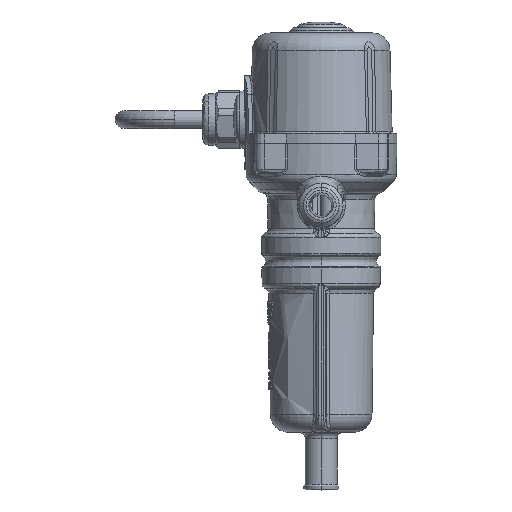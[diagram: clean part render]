
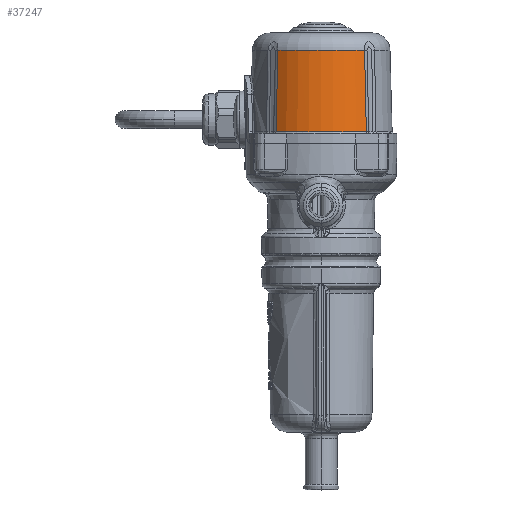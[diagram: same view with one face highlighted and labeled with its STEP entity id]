
A CAD part, left-side view. The second image highlights one B-rep face of the part: STEP entity #37247.
In plain terms, the highlighted free-form (B-spline) face has degree [2, 1] with [9, 2] control points.
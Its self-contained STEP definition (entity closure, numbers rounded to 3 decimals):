
#688 = DIRECTION ( 'NONE',  ( 0., -1., 0. ) ) ;
#2930 = FACE_OUTER_BOUND ( 'NONE', #104418, .T. ) ;
#5272 = CARTESIAN_POINT ( 'NONE',  ( -58., 37.383, -91.007 ) ) ;
#12040 = VERTEX_POINT ( 'NONE', #50521 ) ;
#15592 = CARTESIAN_POINT ( 'NONE',  ( -58., 0., 1336.596 ) ) ;
#16066 = CARTESIAN_POINT ( 'NONE',  ( -20.617, 37.383, -91.007 ) ) ;
#19569 =( BOUNDED_SURFACE ( )  B_SPLINE_SURFACE ( 2, 1, ( 
 ( #79840, #25956 ),
 ( #15592, #90662 ),
 ( #26415, #101403 ),
 ( #37211, #112207 ),
 ( #47986, #123059 ),
 ( #58753, #133825 ),
 ( #69514, #5272 ),
 ( #80305, #16066 ),
 ( #91133, #26874 ) ),
 .UNSPECIFIED., .T., .F., .F. ) 
 B_SPLINE_SURFACE_WITH_KNOTS ( ( 3, 2, 2, 2, 3 ),
 ( 2, 2 ),
 ( 0., 0.25, 0.5, 0.75, 1. ),
 ( 0., 1. ),
 .UNSPECIFIED. ) 
 GEOMETRIC_REPRESENTATION_ITEM ( )  RATIONAL_B_SPLINE_SURFACE ( (
 ( 1., 1.),
 ( 0.707, 0.707),
 ( 1., 1.),
 ( 0.707, 0.707),
 ( 1., 1.),
 ( 0.707, 0.707),
 ( 1., 1.),
 ( 0.707, 0.707),
 ( 1., 1.) ) ) 
 REPRESENTATION_ITEM ( '' )  SURFACE ( )  );
#25956 = CARTESIAN_POINT ( 'NONE',  ( -20.617, 0., -91.007 ) ) ;
#26415 = CARTESIAN_POINT ( 'NONE',  ( -58., 0., 1336.596 ) ) ;
#26874 = CARTESIAN_POINT ( 'NONE',  ( -20.617, 0., -91.007 ) ) ;
#28519 = VERTEX_POINT ( 'NONE', #98342 ) ;
#31408 = CARTESIAN_POINT ( 'NONE',  ( -85.473, 22.645, -23.026 ) ) ;
#36808 = ORIENTED_EDGE ( 'NONE', *, *, #136958, .T. ) ;
#37211 = CARTESIAN_POINT ( 'NONE',  ( -58., 0., 1336.596 ) ) ;
#37247 = ADVANCED_FACE ( 'NONE', ( #2930 ), #19569, .T. ) ;
#37489 = DIRECTION ( 'NONE',  ( 0., 0., -1. ) ) ;
#38358 = CARTESIAN_POINT ( 'NONE',  ( -84.8, -21.782, 17.736 ) ) ;
#38837 = CARTESIAN_POINT ( 'NONE',  ( -85.251, -22.355, -9.439 ) ) ;
#46051 = VERTEX_POINT ( 'NONE', #48102 ) ;
#47986 = CARTESIAN_POINT ( 'NONE',  ( -58., 0., 1336.596 ) ) ;
#48102 = CARTESIAN_POINT ( 'NONE',  ( -84.8, 21.782, 17.736 ) ) ;
#50521 = CARTESIAN_POINT ( 'NONE',  ( -84.8, -21.782, 17.736 ) ) ;
#50712 = CIRCLE ( 'NONE', #98353, 35.603 ) ;
#51175 = ORIENTED_EDGE ( 'NONE', *, *, #68785, .T. ) ;
#53077 = CARTESIAN_POINT ( 'NONE',  ( -85.026, 22.068, 4.148 ) ) ;
#58753 = CARTESIAN_POINT ( 'NONE',  ( -58., 0., 1336.596 ) ) ;
#61351 = VERTEX_POINT ( 'NONE', #31408 ) ;
#62636 = EDGE_CURVE ( 'NONE', #46051, #61351, #138373, .T. ) ;
#63860 = CARTESIAN_POINT ( 'NONE',  ( -85.473, 22.645, -23.026 ) ) ;
#64966 = DIRECTION ( 'NONE',  ( 0., 0., 1. ) ) ;
#68785 = EDGE_CURVE ( 'NONE', #12040, #46051, #124700, .T. ) ;
#69514 = CARTESIAN_POINT ( 'NONE',  ( -58., 0., 1336.596 ) ) ;
#75049 = ORIENTED_EDGE ( 'NONE', *, *, #62636, .T. ) ;
#75351 = ORIENTED_EDGE ( 'NONE', *, *, #102326, .F. ) ;
#79840 = CARTESIAN_POINT ( 'NONE',  ( -58., 0., 1336.596 ) ) ;
#80305 = CARTESIAN_POINT ( 'NONE',  ( -58., 0., 1336.596 ) ) ;
#81479 = CARTESIAN_POINT ( 'NONE',  ( -85.026, -22.068, 4.148 ) ) ;
#90662 = CARTESIAN_POINT ( 'NONE',  ( -20.617, -37.383, -91.007 ) ) ;
#91133 = CARTESIAN_POINT ( 'NONE',  ( -58., 0., 1336.596 ) ) ;
#98342 = CARTESIAN_POINT ( 'NONE',  ( -85.473, -22.645, -23.026 ) ) ;
#98353 = AXIS2_PLACEMENT_3D ( 'NONE', #129237, #64966, #688 ) ;
#101403 = CARTESIAN_POINT ( 'NONE',  ( -58., -37.383, -91.007 ) ) ;
#101681 = CARTESIAN_POINT ( 'NONE',  ( -58., 0., 17.736 ) ) ;
#102326 = EDGE_CURVE ( 'NONE', #12040, #28519, #128972, .T. ) ;
#104418 = EDGE_LOOP ( 'NONE', ( #75351, #51175, #75049, #36808 ) ) ;
#110879 = AXIS2_PLACEMENT_3D ( 'NONE', #101681, #37489, #112492 ) ;
#112207 = CARTESIAN_POINT ( 'NONE',  ( -95.383, -37.383, -91.007 ) ) ;
#112492 = DIRECTION ( 'NONE',  ( 0., 1., 0. ) ) ;
#113854 = CARTESIAN_POINT ( 'NONE',  ( -85.473, -22.645, -23.026 ) ) ;
#117366 = CARTESIAN_POINT ( 'NONE',  ( -84.8, 21.782, 17.736 ) ) ;
#123059 = CARTESIAN_POINT ( 'NONE',  ( -95.383, 0., -91.007 ) ) ;
#124700 = CIRCLE ( 'NONE', #110879, 34.536 ) ;
#128112 = CARTESIAN_POINT ( 'NONE',  ( -85.251, 22.355, -9.439 ) ) ;
#128972 = B_SPLINE_CURVE_WITH_KNOTS ( 'NONE', 3,
 ( #38358, #81479, #38837, #113854 ),
 .UNSPECIFIED., .F., .F.,
 ( 4, 4 ),
 ( 0., 1. ),
 .UNSPECIFIED. ) ;
#129237 = CARTESIAN_POINT ( 'NONE',  ( -58., 0., -23.026 ) ) ;
#133825 = CARTESIAN_POINT ( 'NONE',  ( -95.383, 37.383, -91.007 ) ) ;
#136958 = EDGE_CURVE ( 'NONE', #61351, #28519, #50712, .T. ) ;
#138373 = B_SPLINE_CURVE_WITH_KNOTS ( 'NONE', 3,
 ( #117366, #53077, #128112, #63860 ),
 .UNSPECIFIED., .F., .F.,
 ( 4, 4 ),
 ( 0., 1. ),
 .UNSPECIFIED. ) ;
